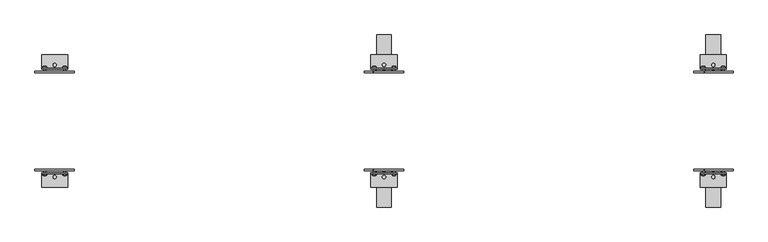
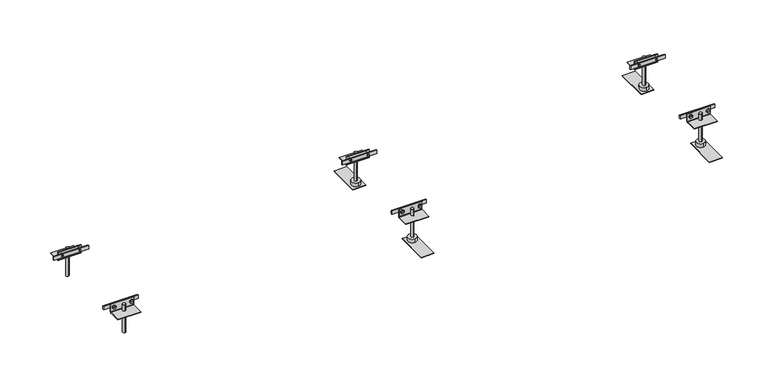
"""IFC4 building model written with IfcOpenShell, lengths in millimetres: proxy geometry, Electrical_Installation_Hager_BKW-Trunking-System-With-Trunking-Bottom-For-Dry-Cleaned-Floors : Nominal Size 250  Length 2.4 m."""

from ifc_helpers import new_model, si_unit, point, frame, frame_2d, origin, place, context, project, spatial, polyline, circle_curve, ellipse_curve, trimmed, segment, composite_curve, outline, extrude, source, transform, mapped, element, save
from ifc_brep_helpers import plane_surface, cylinder_surface, revolved_surface, advanced_brep


def electrical_fixtures_fba496b2(model_context):
    return source(origin(), model_context, "Body", "SolidModel", [
        advanced_brep(
        [(1629.0575247, -131.6418922, 2.5), (1619.4769168, -131.6418922, 2.5), (1619.4769168, -129.7, 2.5), (1629.0575247, -129.7, 2.5), (1621.7042517, -129.7, 2.5), (1626.8301898, -129.7, 2.5), (1621.7042517, -117.7, 2.5), (1626.8301898, -117.7, 2.5), (1624.2672208, -117.7, 2.5), (1624.2672208, -133.3479209, 2.5)],
        [
            (0, 1, circle_curve(frame((1624.2672208, -131.6418922, 2.5), z_axis=(0.0, 1.0, 0.0), x_axis=(-1.0, 0.0, 0.0)), 4.790304)),
            (1, 2),
            (2, 3, circle_curve(frame((1624.2672208, -129.7, 2.5), z_axis=(0.0, -1.0, 0.0), x_axis=(-1.0, 0.0, 0.0)), 4.790304)),
            (3, 0),
            (1, 0, circle_curve(frame((1624.2672208, -131.6418922, 2.5), z_axis=(0.0, 1.0, 0.0), x_axis=(-1.0, 0.0, 0.0)), 4.790304)),
            (3, 2, circle_curve(frame((1624.2672208, -129.7, 2.5), z_axis=(0.0, -1.0, 0.0), x_axis=(-1.0, 0.0, 0.0)), 4.790304)),
            (2, 4),
            (4, 5, circle_curve(frame((1624.2672208, -129.7, 2.5), z_axis=(0.0, -1.0, 0.0), x_axis=(-1.0, 0.0, 0.0)), 2.562969)),
            (5, 3),
            (5, 4, circle_curve(frame((1624.2672208, -129.7, 2.5), z_axis=(0.0, -1.0, 0.0), x_axis=(-1.0, 0.0, 0.0)), 2.562969)),
            (4, 6),
            (6, 7, circle_curve(frame((1624.2672208, -117.7, 2.5), z_axis=(0.0, -1.0, 0.0), x_axis=(-1.0, 0.0, 0.0)), 2.562969)),
            (7, 5),
            (7, 6, circle_curve(frame((1624.2672208, -117.7, 2.5), z_axis=(0.0, -1.0, 0.0), x_axis=(-1.0, 0.0, 0.0)), 2.562969)),
            (6, 8),
            (8, 7),
            (9, 1, circle_curve(frame((1624.2353142, -125.8592246, 2.5), z_axis=(0.0, 0.0, -1.0), x_axis=(-1.0, 0.0, 0.0)), 7.4887643)),
            (0, 9, circle_curve(frame((1624.2991274, -125.8592246, 2.5), z_axis=(0.0, 0.0, -1.0), x_axis=(1.0, 0.0, 0.0)), 7.4887643)),
        ],
        [
            cylinder_surface(frame((1624.2672208, -129.2950786, 2.5), z_axis=(0.0, -1.0, 0.0), x_axis=(-1.0, 0.0, 0.0)), 4.790304),
            plane_surface(frame((1624.2672208, -129.7, 2.5), z_axis=(0.0, 1.0, 0.0), x_axis=(-1.0, 0.0, 0.0))),
            cylinder_surface(frame((1624.2672208, -129.2950786, 2.5), z_axis=(0.0, -1.0, 0.0), x_axis=(-1.0, 0.0, 0.0)), 2.562969),
            plane_surface(frame((1624.2672208, -117.7, 2.5), z_axis=(0.0, 1.0, 0.0), x_axis=(-1.0, 0.0, 0.0))),
            revolved_surface(trimmed(ellipse_curve(frame((1624.2353142, -125.8592246, 2.5), z_axis=(0.0, 0.0, 1.0), x_axis=(-1.0, 0.0, 0.0)), 7.4887643, 7.4887643), [point((1619.4769168, -131.6418922, 2.5))], [point((1624.2672208, -133.3479209, 2.5))], True, "CARTESIAN"), (1624.2672208, -129.2950786, 2.5), (0.0, -1.0, 0.0)),
        ],
        [
            (0, [[1, 2, 3, 4]]),
            (0, [[5, -4, 6, -2]]),
            (1, [[-3, 7, 8, 9]]),
            (1, [[-6, -9, 10, -7]]),
            (2, [[-8, 11, 12, 13]]),
            (2, [[-10, -13, 14, -11]]),
            (3, [[-12, 15, 16]]),
            (3, [[-14, -16, -15]]),
            (4, [[17, -1, 18]]),
            (4, [[-18, -5, -17]]),
        ],
    ),
        advanced_brep(
        [(1580.790304, -131.6418922, 2.5), (1571.209696, -131.6418922, 2.5), (1571.209696, -129.7, 2.5), (1580.790304, -129.7, 2.5), (1573.437031, -129.7, 2.5), (1578.562969, -129.7, 2.5), (1573.437031, -117.7, 2.5), (1578.562969, -117.7, 2.5), (1576.0, -117.7, 2.5), (1576.0, -133.3479209, 2.5)],
        [
            (0, 1, circle_curve(frame((1576.0, -131.6418922, 2.5), z_axis=(0.0, 1.0, 0.0), x_axis=(-1.0, 0.0, 0.0)), 4.790304)),
            (1, 2),
            (2, 3, circle_curve(frame((1576.0, -129.7, 2.5), z_axis=(0.0, -1.0, 0.0), x_axis=(-1.0, 0.0, 0.0)), 4.790304)),
            (3, 0),
            (1, 0, circle_curve(frame((1576.0, -131.6418922, 2.5), z_axis=(0.0, 1.0, 0.0), x_axis=(-1.0, 0.0, 0.0)), 4.790304)),
            (3, 2, circle_curve(frame((1576.0, -129.7, 2.5), z_axis=(0.0, -1.0, 0.0), x_axis=(-1.0, 0.0, 0.0)), 4.790304)),
            (2, 4),
            (4, 5, circle_curve(frame((1576.0, -129.7, 2.5), z_axis=(0.0, -1.0, 0.0), x_axis=(-1.0, 0.0, 0.0)), 2.562969)),
            (5, 3),
            (5, 4, circle_curve(frame((1576.0, -129.7, 2.5), z_axis=(0.0, -1.0, 0.0), x_axis=(-1.0, 0.0, 0.0)), 2.562969)),
            (4, 6),
            (6, 7, circle_curve(frame((1576.0, -117.7, 2.5), z_axis=(0.0, -1.0, 0.0), x_axis=(-1.0, 0.0, 0.0)), 2.562969)),
            (7, 5),
            (7, 6, circle_curve(frame((1576.0, -117.7, 2.5), z_axis=(0.0, -1.0, 0.0), x_axis=(-1.0, 0.0, 0.0)), 2.562969)),
            (6, 8),
            (8, 7),
            (9, 1, circle_curve(frame((1575.9680934, -125.8592246, 2.5), z_axis=(0.0, 0.0, -1.0), x_axis=(-1.0, 0.0, 0.0)), 7.4887643)),
            (0, 9, circle_curve(frame((1576.0319066, -125.8592246, 2.5), z_axis=(0.0, 0.0, -1.0), x_axis=(1.0, 0.0, 0.0)), 7.4887643)),
        ],
        [
            cylinder_surface(frame((1576.0, -129.2950786, 2.5), z_axis=(0.0, -1.0, 0.0), x_axis=(-1.0, 0.0, 0.0)), 4.790304),
            plane_surface(frame((1576.0, -129.7, 2.5), z_axis=(0.0, 1.0, 0.0), x_axis=(-1.0, 0.0, 0.0))),
            cylinder_surface(frame((1576.0, -129.2950786, 2.5), z_axis=(0.0, -1.0, 0.0), x_axis=(-1.0, 0.0, 0.0)), 2.562969),
            plane_surface(frame((1576.0, -117.7, 2.5), z_axis=(0.0, 1.0, 0.0), x_axis=(-1.0, 0.0, 0.0))),
            revolved_surface(trimmed(ellipse_curve(frame((1575.9680934, -125.8592246, 2.5), z_axis=(0.0, 0.0, 1.0), x_axis=(-1.0, 0.0, 0.0)), 7.4887643, 7.4887643), [point((1571.209696, -131.6418922, 2.5))], [point((1576.0, -133.3479209, 2.5))], True, "CARTESIAN"), (1576.0, -129.2950786, 2.5), (0.0, -1.0, 0.0)),
        ],
        [
            (0, [[1, 2, 3, 4]]),
            (0, [[5, -4, 6, -2]]),
            (1, [[-3, 7, 8, 9]]),
            (1, [[-6, -9, 10, -7]]),
            (2, [[-8, 11, 12, 13]]),
            (2, [[-10, -13, 14, -11]]),
            (3, [[-12, 15, 16]]),
            (3, [[-14, -16, -15]]),
            (4, [[17, -1, 18]]),
            (4, [[-18, -5, -17]]),
        ],
    ),
        advanced_brep(
        [(1629.0575247, 129.7, 2.5), (1619.4769168, 129.7, 2.5), (1619.4769168, 131.6418922, 2.5), (1629.0575247, 131.6418922, 2.5), (1626.8301898, 129.7, 2.5), (1621.7042517, 129.7, 2.5), (1626.8301898, 117.7, 2.5), (1621.7042517, 117.7, 2.5), (1624.2672208, 117.7, 2.5), (1624.2672208, 133.3479209, 2.5)],
        [
            (0, 1, circle_curve(frame((1624.2672208, 129.7, 2.5), z_axis=(0.0, 1.0, 0.0), x_axis=(-1.0, 0.0, 0.0)), 4.790304)),
            (1, 2),
            (2, 3, circle_curve(frame((1624.2672208, 131.6418922, 2.5), z_axis=(0.0, -1.0, 0.0), x_axis=(-1.0, 0.0, 0.0)), 4.790304)),
            (3, 0),
            (1, 0, circle_curve(frame((1624.2672208, 129.7, 2.5), z_axis=(0.0, 1.0, 0.0), x_axis=(-1.0, 0.0, 0.0)), 4.790304)),
            (3, 2, circle_curve(frame((1624.2672208, 131.6418922, 2.5), z_axis=(0.0, -1.0, 0.0), x_axis=(-1.0, 0.0, 0.0)), 4.790304)),
            (4, 5, circle_curve(frame((1624.2672208, 129.7, 2.5), z_axis=(0.0, 1.0, 0.0), x_axis=(-1.0, 0.0, 0.0)), 2.562969)),
            (5, 1),
            (0, 4),
            (5, 4, circle_curve(frame((1624.2672208, 129.7, 2.5), z_axis=(0.0, 1.0, 0.0), x_axis=(-1.0, 0.0, 0.0)), 2.562969)),
            (6, 7, circle_curve(frame((1624.2672208, 117.7, 2.5), z_axis=(0.0, 1.0, 0.0), x_axis=(-1.0, 0.0, 0.0)), 2.562969)),
            (7, 5),
            (4, 6),
            (7, 6, circle_curve(frame((1624.2672208, 117.7, 2.5), z_axis=(0.0, 1.0, 0.0), x_axis=(-1.0, 0.0, 0.0)), 2.562969)),
            (8, 7),
            (6, 8),
            (2, 9, circle_curve(frame((1624.2353142, 125.8592246, 2.5), z_axis=(0.0, 0.0, -1.0), x_axis=(-1.0, 0.0, 0.0)), 7.4887643)),
            (9, 3, circle_curve(frame((1624.2991274, 125.8592246, 2.5), z_axis=(0.0, 0.0, -1.0), x_axis=(1.0, 0.0, 0.0)), 7.4887643)),
        ],
        [
            cylinder_surface(frame((1624.2672208, 129.2950786, 2.5), z_axis=(0.0, -1.0, 0.0), x_axis=(-1.0, 0.0, 0.0)), 4.790304),
            plane_surface(frame((1624.2672208, 129.7, 2.5), z_axis=(0.0, -1.0, 0.0), x_axis=(-1.0, 0.0, 0.0))),
            cylinder_surface(frame((1624.2672208, 129.2950786, 2.5), z_axis=(0.0, -1.0, 0.0), x_axis=(-1.0, 0.0, 0.0)), 2.562969),
            plane_surface(frame((1624.2672208, 117.7, 2.5), z_axis=(0.0, -1.0, 0.0), x_axis=(-1.0, 0.0, 0.0))),
            revolved_surface(trimmed(ellipse_curve(frame((1624.2353142, 125.8592246, 2.5), z_axis=(0.0, 0.0, 1.0), x_axis=(-1.0, 0.0, 0.0)), 7.4887643, 7.4887643), [point((1624.2672208, 133.3479209, 2.5))], [point((1619.4769168, 131.6418922, 2.5))], True, "CARTESIAN"), (1624.2672208, 129.2950786, 2.5), (0.0, -1.0, 0.0)),
        ],
        [
            (0, [[1, 2, 3, 4]]),
            (0, [[5, -4, 6, -2]]),
            (1, [[7, 8, -1, 9]]),
            (1, [[10, -9, -5, -8]]),
            (2, [[11, 12, -7, 13]]),
            (2, [[14, -13, -10, -12]]),
            (3, [[15, -11, 16]]),
            (3, [[-16, -14, -15]]),
            (4, [[-3, 17, 18]]),
            (4, [[-6, -18, -17]]),
        ],
    ),
        advanced_brep(
        [(1580.790304, 129.7, 2.5), (1571.209696, 129.7, 2.5), (1571.209696, 131.6418922, 2.5), (1580.790304, 131.6418922, 2.5), (1578.562969, 129.7, 2.5), (1573.437031, 129.7, 2.5), (1578.562969, 117.7, 2.5), (1573.437031, 117.7, 2.5), (1576.0, 117.7, 2.5), (1576.0, 133.3479209, 2.5)],
        [
            (0, 1, circle_curve(frame((1576.0, 129.7, 2.5), z_axis=(0.0, 1.0, 0.0), x_axis=(-1.0, 0.0, 0.0)), 4.790304)),
            (1, 2),
            (2, 3, circle_curve(frame((1576.0, 131.6418922, 2.5), z_axis=(0.0, -1.0, 0.0), x_axis=(-1.0, 0.0, 0.0)), 4.790304)),
            (3, 0),
            (1, 0, circle_curve(frame((1576.0, 129.7, 2.5), z_axis=(0.0, 1.0, 0.0), x_axis=(-1.0, 0.0, 0.0)), 4.790304)),
            (3, 2, circle_curve(frame((1576.0, 131.6418922, 2.5), z_axis=(0.0, -1.0, 0.0), x_axis=(-1.0, 0.0, 0.0)), 4.790304)),
            (4, 5, circle_curve(frame((1576.0, 129.7, 2.5), z_axis=(0.0, 1.0, 0.0), x_axis=(-1.0, 0.0, 0.0)), 2.562969)),
            (5, 1),
            (0, 4),
            (5, 4, circle_curve(frame((1576.0, 129.7, 2.5), z_axis=(0.0, 1.0, 0.0), x_axis=(-1.0, 0.0, 0.0)), 2.562969)),
            (6, 7, circle_curve(frame((1576.0, 117.7, 2.5), z_axis=(0.0, 1.0, 0.0), x_axis=(-1.0, 0.0, 0.0)), 2.562969)),
            (7, 5),
            (4, 6),
            (7, 6, circle_curve(frame((1576.0, 117.7, 2.5), z_axis=(0.0, 1.0, 0.0), x_axis=(-1.0, 0.0, 0.0)), 2.562969)),
            (8, 7),
            (6, 8),
            (2, 9, circle_curve(frame((1575.9680934, 125.8592246, 2.5), z_axis=(0.0, 0.0, -1.0), x_axis=(-1.0, 0.0, 0.0)), 7.4887643)),
            (9, 3, circle_curve(frame((1576.0319066, 125.8592246, 2.5), z_axis=(0.0, 0.0, -1.0), x_axis=(1.0, 0.0, 0.0)), 7.4887643)),
        ],
        [
            cylinder_surface(frame((1576.0, 129.2950786, 2.5), z_axis=(0.0, -1.0, 0.0), x_axis=(-1.0, 0.0, 0.0)), 4.790304),
            plane_surface(frame((1576.0, 129.7, 2.5), z_axis=(0.0, -1.0, 0.0), x_axis=(-1.0, 0.0, 0.0))),
            cylinder_surface(frame((1576.0, 129.2950786, 2.5), z_axis=(0.0, -1.0, 0.0), x_axis=(-1.0, 0.0, 0.0)), 2.562969),
            plane_surface(frame((1576.0, 117.7, 2.5), z_axis=(0.0, -1.0, 0.0), x_axis=(-1.0, 0.0, 0.0))),
            revolved_surface(trimmed(ellipse_curve(frame((1575.9680934, 125.8592246, 2.5), z_axis=(0.0, 0.0, 1.0), x_axis=(-1.0, 0.0, 0.0)), 7.4887643, 7.4887643), [point((1576.0, 133.3479209, 2.5))], [point((1571.209696, 131.6418922, 2.5))], True, "CARTESIAN"), (1576.0, 129.2950786, 2.5), (0.0, -1.0, 0.0)),
        ],
        [
            (0, [[1, 2, 3, 4]]),
            (0, [[5, -4, 6, -2]]),
            (1, [[7, 8, -1, 9]]),
            (1, [[10, -9, -5, -8]]),
            (2, [[11, 12, -7, 13]]),
            (2, [[14, -13, -10, -12]]),
            (3, [[15, -11, 16]]),
            (3, [[-16, -14, -15]]),
            (4, [[-3, 17, 18]]),
            (4, [[-6, -18, -17]]),
        ],
    ),
        extrude(outline(polyline([(1552.0, 117.7), (1552.0, 120.7), (1648.0, 120.7), (1648.0, 117.7), (1552.0, 117.7)])), frame((0.0, 0.0, -2.5), z_axis=(0.0, 0.0, 1.0), x_axis=(1.0, 0.0, 0.0)), (0.0, 0.0, 1.0), 10.0),
        extrude(outline(polyline([(1552.0, -120.7), (1552.0, -117.7), (1648.0, -117.7), (1648.0, -120.7), (1552.0, -120.7)])), frame((0.0, 0.0, -2.5), z_axis=(0.0, 0.0, 1.0), x_axis=(1.0, 0.0, 0.0)), (0.0, 0.0, 1.0), 10.0),
        extrude(outline(composite_curve([segment(polyline([(125.6, 10.9), (127.6, 10.9), (127.6, -11.1088822)]), True, "CONTINUOUS"), segment(trimmed(circle_curve(frame_2d((128.5911178, -11.1088822)), 0.9911178), [point((127.6, -11.1088822))], [point((128.5911178, -12.1))], True, "CARTESIAN"), True, "CONTINUOUS"), segment(polyline([(128.5911178, -12.1), (160.6, -12.1), (160.6, -14.1), (128.6002521, -14.1)]), True, "CONTINUOUS"), segment(trimmed(circle_curve(frame_2d((128.6002521, -11.0997479)), 3.0002521), [point((128.6002521, -14.1))], [point((125.6, -11.0997479))], False, "CARTESIAN"), True, "CONTINUOUS"), segment(polyline([(125.6, -11.0997479), (125.6, 10.9)]), True, "CONTINUOUS")], self_intersect=False)), frame((1568.3, 0.0, 0.0), z_axis=(1.0, 0.0, 0.0), x_axis=(0.0, 1.0, 0.0)), (0.0, 0.0, 1.0), 63.4),
        extrude(outline(composite_curve([segment(polyline([(-125.6, 10.9), (-125.6, -11.0997479)]), True, "CONTINUOUS"), segment(trimmed(circle_curve(frame_2d((-128.6002521, -11.0997479)), 3.0002521), [point((-125.6, -11.0997479))], [point((-128.6002521, -14.1))], False, "CARTESIAN"), True, "CONTINUOUS"), segment(polyline([(-128.6002521, -14.1), (-160.6, -14.1), (-160.6, -12.1), (-128.5911178, -12.1)]), True, "CONTINUOUS"), segment(trimmed(circle_curve(frame_2d((-128.5911178, -11.1088822)), 0.9911178), [point((-128.5911178, -12.1))], [point((-127.6, -11.1088822))], True, "CARTESIAN"), True, "CONTINUOUS"), segment(polyline([(-127.6, -11.1088822), (-127.6, 10.9), (-125.6, 10.9)]), True, "CONTINUOUS")], self_intersect=False)), frame((1568.3, 0.0, 0.0), z_axis=(1.0, 0.0, 0.0), x_axis=(0.0, 1.0, 0.0)), (0.0, 0.0, 1.0), 63.4),
        extrude(outline(composite_curve([segment(trimmed(circle_curve(frame_2d((1600.0, 136.1712378)), 3.9923162), [point((1600.0, 140.163554))], [point((1600.0, 132.1789216))], False, "CARTESIAN"), True, "CONTINUOUS"), segment(trimmed(circle_curve(frame_2d((1600.0, 136.1712378)), 3.9923162), [point((1600.0, 132.1789216))], [point((1600.0, 140.163554))], False, "CARTESIAN"), True, "CONTINUOUS")], self_intersect=False)), frame((0.0, 0.0, -74.8), z_axis=(0.0, 0.0, 1.0), x_axis=(1.0, 0.0, 0.0)), (0.0, 0.0, 1.0), 81.8),
        extrude(outline(composite_curve([segment(trimmed(circle_curve(frame_2d((1600.0, -136.0787011)), 3.991847), [point((1600.0, -132.0868541))], [point((1600.0, -140.0705482))], False, "CARTESIAN"), True, "CONTINUOUS"), segment(trimmed(circle_curve(frame_2d((1600.0, -136.0787011)), 3.991847), [point((1600.0, -140.0705482))], [point((1600.0, -132.0868541))], False, "CARTESIAN"), True, "CONTINUOUS")], self_intersect=False)), frame((0.0, 0.0, -74.8), z_axis=(0.0, 0.0, 1.0), x_axis=(1.0, 0.0, 0.0)), (0.0, 0.0, 1.0), 81.8),
        extrude(outline(composite_curve([segment(trimmed(circle_curve(frame_2d((1600.0, 136.1652527)), 12.0), [point((1600.0, 148.1652527))], [point((1600.0, 124.1652527))], False, "CARTESIAN"), True, "CONTINUOUS"), segment(trimmed(circle_curve(frame_2d((1600.0, 136.1652527)), 12.0), [point((1600.0, 124.1652527))], [point((1600.0, 148.1652527))], False, "CARTESIAN"), True, "CONTINUOUS")], self_intersect=False)), frame((0.0, 0.0, -85.5), z_axis=(0.0, 0.0, 1.0), x_axis=(1.0, 0.0, 0.0)), (0.0, 0.0, 1.0), 10.7),
        extrude(outline(composite_curve([segment(trimmed(circle_curve(frame_2d((1600.0, -136.112037)), 12.0), [point((1600.0, -124.112037))], [point((1600.0, -148.112037))], False, "CARTESIAN"), True, "CONTINUOUS"), segment(trimmed(circle_curve(frame_2d((1600.0, -136.112037)), 12.0), [point((1600.0, -148.112037))], [point((1600.0, -124.112037))], False, "CARTESIAN"), True, "CONTINUOUS")], self_intersect=False)), frame((0.0, 0.0, -85.5), z_axis=(0.0, 0.0, 1.0), x_axis=(1.0, 0.0, 0.0)), (0.0, 0.0, 1.0), 10.7),
        extrude(outline(polyline([(1618.0, 119.1), (1582.0, 119.1), (1582.0, 209.1), (1618.0, 209.1), (1618.0, 119.1)])), frame((0.0, 0.0, -87.0), z_axis=(0.0, 0.0, 1.0), x_axis=(1.0, 0.0, 0.0)), (0.0, 0.0, 1.0), 1.5),
        extrude(outline(polyline([(1618.0, -209.1), (1582.0, -209.1), (1582.0, -119.1), (1618.0, -119.1), (1618.0, -209.1)])), frame((0.0, 0.0, -87.0), z_axis=(0.0, 0.0, 1.0), x_axis=(1.0, 0.0, 0.0)), (0.0, 0.0, 1.0), 1.5),
        advanced_brep(
        [(829.0575247, -131.6418922, 2.5), (819.4769168, -131.6418922, 2.5), (819.4769168, -129.7, 2.5), (829.0575247, -129.7, 2.5), (821.7042517, -129.7, 2.5), (826.8301898, -129.7, 2.5), (821.7042517, -117.7, 2.5), (826.8301898, -117.7, 2.5), (824.2672208, -117.7, 2.5), (824.2672208, -133.3479209, 2.5)],
        [
            (0, 1, circle_curve(frame((824.2672208, -131.6418922, 2.5), z_axis=(0.0, 1.0, 0.0), x_axis=(-1.0, 0.0, 0.0)), 4.790304)),
            (1, 2),
            (2, 3, circle_curve(frame((824.2672208, -129.7, 2.5), z_axis=(0.0, -1.0, 0.0), x_axis=(-1.0, 0.0, 0.0)), 4.790304)),
            (3, 0),
            (1, 0, circle_curve(frame((824.2672208, -131.6418922, 2.5), z_axis=(0.0, 1.0, 0.0), x_axis=(-1.0, 0.0, 0.0)), 4.790304)),
            (3, 2, circle_curve(frame((824.2672208, -129.7, 2.5), z_axis=(0.0, -1.0, 0.0), x_axis=(-1.0, 0.0, 0.0)), 4.790304)),
            (2, 4),
            (4, 5, circle_curve(frame((824.2672208, -129.7, 2.5), z_axis=(0.0, -1.0, 0.0), x_axis=(-1.0, 0.0, 0.0)), 2.562969)),
            (5, 3),
            (5, 4, circle_curve(frame((824.2672208, -129.7, 2.5), z_axis=(0.0, -1.0, 0.0), x_axis=(-1.0, 0.0, 0.0)), 2.562969)),
            (4, 6),
            (6, 7, circle_curve(frame((824.2672208, -117.7, 2.5), z_axis=(0.0, -1.0, 0.0), x_axis=(-1.0, 0.0, 0.0)), 2.562969)),
            (7, 5),
            (7, 6, circle_curve(frame((824.2672208, -117.7, 2.5), z_axis=(0.0, -1.0, 0.0), x_axis=(-1.0, 0.0, 0.0)), 2.562969)),
            (6, 8),
            (8, 7),
            (9, 1, circle_curve(frame((824.2353142, -125.8592246, 2.5), z_axis=(0.0, 0.0, -1.0), x_axis=(-1.0, 0.0, 0.0)), 7.4887643)),
            (0, 9, circle_curve(frame((824.2991274, -125.8592246, 2.5), z_axis=(0.0, 0.0, -1.0), x_axis=(1.0, 0.0, 0.0)), 7.4887643)),
        ],
        [
            cylinder_surface(frame((824.2672208, -129.2950786, 2.5), z_axis=(0.0, -1.0, 0.0), x_axis=(-1.0, 0.0, 0.0)), 4.790304),
            plane_surface(frame((824.2672208, -129.7, 2.5), z_axis=(0.0, 1.0, 0.0), x_axis=(-1.0, 0.0, 0.0))),
            cylinder_surface(frame((824.2672208, -129.2950786, 2.5), z_axis=(0.0, -1.0, 0.0), x_axis=(-1.0, 0.0, 0.0)), 2.562969),
            plane_surface(frame((824.2672208, -117.7, 2.5), z_axis=(0.0, 1.0, 0.0), x_axis=(-1.0, 0.0, 0.0))),
            revolved_surface(trimmed(ellipse_curve(frame((824.2353142, -125.8592246, 2.5), z_axis=(0.0, 0.0, 1.0), x_axis=(-1.0, 0.0, 0.0)), 7.4887643, 7.4887643), [point((819.4769168, -131.6418922, 2.5))], [point((824.2672208, -133.3479209, 2.5))], True, "CARTESIAN"), (824.2672208, -129.2950786, 2.5), (0.0, -1.0, 0.0)),
        ],
        [
            (0, [[1, 2, 3, 4]]),
            (0, [[5, -4, 6, -2]]),
            (1, [[-3, 7, 8, 9]]),
            (1, [[-6, -9, 10, -7]]),
            (2, [[-8, 11, 12, 13]]),
            (2, [[-10, -13, 14, -11]]),
            (3, [[-12, 15, 16]]),
            (3, [[-14, -16, -15]]),
            (4, [[17, -1, 18]]),
            (4, [[-18, -5, -17]]),
        ],
    ),
        advanced_brep(
        [(780.790304, -131.6418922, 2.5), (771.209696, -131.6418922, 2.5), (771.209696, -129.7, 2.5), (780.790304, -129.7, 2.5), (773.437031, -129.7, 2.5), (778.562969, -129.7, 2.5), (773.437031, -117.7, 2.5), (778.562969, -117.7, 2.5), (776.0, -117.7, 2.5), (776.0, -133.3479209, 2.5)],
        [
            (0, 1, circle_curve(frame((776.0, -131.6418922, 2.5), z_axis=(0.0, 1.0, 0.0), x_axis=(-1.0, 0.0, 0.0)), 4.790304)),
            (1, 2),
            (2, 3, circle_curve(frame((776.0, -129.7, 2.5), z_axis=(0.0, -1.0, 0.0), x_axis=(-1.0, 0.0, 0.0)), 4.790304)),
            (3, 0),
            (1, 0, circle_curve(frame((776.0, -131.6418922, 2.5), z_axis=(0.0, 1.0, 0.0), x_axis=(-1.0, 0.0, 0.0)), 4.790304)),
            (3, 2, circle_curve(frame((776.0, -129.7, 2.5), z_axis=(0.0, -1.0, 0.0), x_axis=(-1.0, 0.0, 0.0)), 4.790304)),
            (2, 4),
            (4, 5, circle_curve(frame((776.0, -129.7, 2.5), z_axis=(0.0, -1.0, 0.0), x_axis=(-1.0, 0.0, 0.0)), 2.562969)),
            (5, 3),
            (5, 4, circle_curve(frame((776.0, -129.7, 2.5), z_axis=(0.0, -1.0, 0.0), x_axis=(-1.0, 0.0, 0.0)), 2.562969)),
            (4, 6),
            (6, 7, circle_curve(frame((776.0, -117.7, 2.5), z_axis=(0.0, -1.0, 0.0), x_axis=(-1.0, 0.0, 0.0)), 2.562969)),
            (7, 5),
            (7, 6, circle_curve(frame((776.0, -117.7, 2.5), z_axis=(0.0, -1.0, 0.0), x_axis=(-1.0, 0.0, 0.0)), 2.562969)),
            (6, 8),
            (8, 7),
            (9, 1, circle_curve(frame((775.9680934, -125.8592246, 2.5), z_axis=(0.0, 0.0, -1.0), x_axis=(-1.0, 0.0, 0.0)), 7.4887643)),
            (0, 9, circle_curve(frame((776.0319066, -125.8592246, 2.5), z_axis=(0.0, 0.0, -1.0), x_axis=(1.0, 0.0, 0.0)), 7.4887643)),
        ],
        [
            cylinder_surface(frame((776.0, -129.2950786, 2.5), z_axis=(0.0, -1.0, 0.0), x_axis=(-1.0, 0.0, 0.0)), 4.790304),
            plane_surface(frame((776.0, -129.7, 2.5), z_axis=(0.0, 1.0, 0.0), x_axis=(-1.0, 0.0, 0.0))),
            cylinder_surface(frame((776.0, -129.2950786, 2.5), z_axis=(0.0, -1.0, 0.0), x_axis=(-1.0, 0.0, 0.0)), 2.562969),
            plane_surface(frame((776.0, -117.7, 2.5), z_axis=(0.0, 1.0, 0.0), x_axis=(-1.0, 0.0, 0.0))),
            revolved_surface(trimmed(ellipse_curve(frame((775.9680934, -125.8592246, 2.5), z_axis=(0.0, 0.0, 1.0), x_axis=(-1.0, 0.0, 0.0)), 7.4887643, 7.4887643), [point((771.209696, -131.6418922, 2.5))], [point((776.0, -133.3479209, 2.5))], True, "CARTESIAN"), (776.0, -129.2950786, 2.5), (0.0, -1.0, 0.0)),
        ],
        [
            (0, [[1, 2, 3, 4]]),
            (0, [[5, -4, 6, -2]]),
            (1, [[-3, 7, 8, 9]]),
            (1, [[-6, -9, 10, -7]]),
            (2, [[-8, 11, 12, 13]]),
            (2, [[-10, -13, 14, -11]]),
            (3, [[-12, 15, 16]]),
            (3, [[-14, -16, -15]]),
            (4, [[17, -1, 18]]),
            (4, [[-18, -5, -17]]),
        ],
    ),
        advanced_brep(
        [(829.0575247, 129.7, 2.5), (819.4769168, 129.7, 2.5), (819.4769168, 131.6418922, 2.5), (829.0575247, 131.6418922, 2.5), (826.8301898, 129.7, 2.5), (821.7042517, 129.7, 2.5), (826.8301898, 117.7, 2.5), (821.7042517, 117.7, 2.5), (824.2672208, 117.7, 2.5), (824.2672208, 133.3479209, 2.5)],
        [
            (0, 1, circle_curve(frame((824.2672208, 129.7, 2.5), z_axis=(0.0, 1.0, 0.0), x_axis=(-1.0, 0.0, 0.0)), 4.790304)),
            (1, 2),
            (2, 3, circle_curve(frame((824.2672208, 131.6418922, 2.5), z_axis=(0.0, -1.0, 0.0), x_axis=(-1.0, 0.0, 0.0)), 4.790304)),
            (3, 0),
            (1, 0, circle_curve(frame((824.2672208, 129.7, 2.5), z_axis=(0.0, 1.0, 0.0), x_axis=(-1.0, 0.0, 0.0)), 4.790304)),
            (3, 2, circle_curve(frame((824.2672208, 131.6418922, 2.5), z_axis=(0.0, -1.0, 0.0), x_axis=(-1.0, 0.0, 0.0)), 4.790304)),
            (4, 5, circle_curve(frame((824.2672208, 129.7, 2.5), z_axis=(0.0, 1.0, 0.0), x_axis=(-1.0, 0.0, 0.0)), 2.562969)),
            (5, 1),
            (0, 4),
            (5, 4, circle_curve(frame((824.2672208, 129.7, 2.5), z_axis=(0.0, 1.0, 0.0), x_axis=(-1.0, 0.0, 0.0)), 2.562969)),
            (6, 7, circle_curve(frame((824.2672208, 117.7, 2.5), z_axis=(0.0, 1.0, 0.0), x_axis=(-1.0, 0.0, 0.0)), 2.562969)),
            (7, 5),
            (4, 6),
            (7, 6, circle_curve(frame((824.2672208, 117.7, 2.5), z_axis=(0.0, 1.0, 0.0), x_axis=(-1.0, 0.0, 0.0)), 2.562969)),
            (8, 7),
            (6, 8),
            (2, 9, circle_curve(frame((824.2353142, 125.8592246, 2.5), z_axis=(0.0, 0.0, -1.0), x_axis=(-1.0, 0.0, 0.0)), 7.4887643)),
            (9, 3, circle_curve(frame((824.2991274, 125.8592246, 2.5), z_axis=(0.0, 0.0, -1.0), x_axis=(1.0, 0.0, 0.0)), 7.4887643)),
        ],
        [
            cylinder_surface(frame((824.2672208, 129.2950786, 2.5), z_axis=(0.0, -1.0, 0.0), x_axis=(-1.0, 0.0, 0.0)), 4.790304),
            plane_surface(frame((824.2672208, 129.7, 2.5), z_axis=(0.0, -1.0, 0.0), x_axis=(-1.0, 0.0, 0.0))),
            cylinder_surface(frame((824.2672208, 129.2950786, 2.5), z_axis=(0.0, -1.0, 0.0), x_axis=(-1.0, 0.0, 0.0)), 2.562969),
            plane_surface(frame((824.2672208, 117.7, 2.5), z_axis=(0.0, -1.0, 0.0), x_axis=(-1.0, 0.0, 0.0))),
            revolved_surface(trimmed(ellipse_curve(frame((824.2353142, 125.8592246, 2.5), z_axis=(0.0, 0.0, 1.0), x_axis=(-1.0, 0.0, 0.0)), 7.4887643, 7.4887643), [point((824.2672208, 133.3479209, 2.5))], [point((819.4769168, 131.6418922, 2.5))], True, "CARTESIAN"), (824.2672208, 129.2950786, 2.5), (0.0, -1.0, 0.0)),
        ],
        [
            (0, [[1, 2, 3, 4]]),
            (0, [[5, -4, 6, -2]]),
            (1, [[7, 8, -1, 9]]),
            (1, [[10, -9, -5, -8]]),
            (2, [[11, 12, -7, 13]]),
            (2, [[14, -13, -10, -12]]),
            (3, [[15, -11, 16]]),
            (3, [[-16, -14, -15]]),
            (4, [[-3, 17, 18]]),
            (4, [[-6, -18, -17]]),
        ],
    ),
        advanced_brep(
        [(780.790304, 129.7, 2.5), (771.209696, 129.7, 2.5), (771.209696, 131.6418922, 2.5), (780.790304, 131.6418922, 2.5), (778.562969, 129.7, 2.5), (773.437031, 129.7, 2.5), (778.562969, 117.7, 2.5), (773.437031, 117.7, 2.5), (776.0, 117.7, 2.5), (776.0, 133.3479209, 2.5)],
        [
            (0, 1, circle_curve(frame((776.0, 129.7, 2.5), z_axis=(0.0, 1.0, 0.0), x_axis=(-1.0, 0.0, 0.0)), 4.790304)),
            (1, 2),
            (2, 3, circle_curve(frame((776.0, 131.6418922, 2.5), z_axis=(0.0, -1.0, 0.0), x_axis=(-1.0, 0.0, 0.0)), 4.790304)),
            (3, 0),
            (1, 0, circle_curve(frame((776.0, 129.7, 2.5), z_axis=(0.0, 1.0, 0.0), x_axis=(-1.0, 0.0, 0.0)), 4.790304)),
            (3, 2, circle_curve(frame((776.0, 131.6418922, 2.5), z_axis=(0.0, -1.0, 0.0), x_axis=(-1.0, 0.0, 0.0)), 4.790304)),
            (4, 5, circle_curve(frame((776.0, 129.7, 2.5), z_axis=(0.0, 1.0, 0.0), x_axis=(-1.0, 0.0, 0.0)), 2.562969)),
            (5, 1),
            (0, 4),
            (5, 4, circle_curve(frame((776.0, 129.7, 2.5), z_axis=(0.0, 1.0, 0.0), x_axis=(-1.0, 0.0, 0.0)), 2.562969)),
            (6, 7, circle_curve(frame((776.0, 117.7, 2.5), z_axis=(0.0, 1.0, 0.0), x_axis=(-1.0, 0.0, 0.0)), 2.562969)),
            (7, 5),
            (4, 6),
            (7, 6, circle_curve(frame((776.0, 117.7, 2.5), z_axis=(0.0, 1.0, 0.0), x_axis=(-1.0, 0.0, 0.0)), 2.562969)),
            (8, 7),
            (6, 8),
            (2, 9, circle_curve(frame((775.9680934, 125.8592246, 2.5), z_axis=(0.0, 0.0, -1.0), x_axis=(-1.0, 0.0, 0.0)), 7.4887643)),
            (9, 3, circle_curve(frame((776.0319066, 125.8592246, 2.5), z_axis=(0.0, 0.0, -1.0), x_axis=(1.0, 0.0, 0.0)), 7.4887643)),
        ],
        [
            cylinder_surface(frame((776.0, 129.2950786, 2.5), z_axis=(0.0, -1.0, 0.0), x_axis=(-1.0, 0.0, 0.0)), 4.790304),
            plane_surface(frame((776.0, 129.7, 2.5), z_axis=(0.0, -1.0, 0.0), x_axis=(-1.0, 0.0, 0.0))),
            cylinder_surface(frame((776.0, 129.2950786, 2.5), z_axis=(0.0, -1.0, 0.0), x_axis=(-1.0, 0.0, 0.0)), 2.562969),
            plane_surface(frame((776.0, 117.7, 2.5), z_axis=(0.0, -1.0, 0.0), x_axis=(-1.0, 0.0, 0.0))),
            revolved_surface(trimmed(ellipse_curve(frame((775.9680934, 125.8592246, 2.5), z_axis=(0.0, 0.0, 1.0), x_axis=(-1.0, 0.0, 0.0)), 7.4887643, 7.4887643), [point((776.0, 133.3479209, 2.5))], [point((771.209696, 131.6418922, 2.5))], True, "CARTESIAN"), (776.0, 129.2950786, 2.5), (0.0, -1.0, 0.0)),
        ],
        [
            (0, [[1, 2, 3, 4]]),
            (0, [[5, -4, 6, -2]]),
            (1, [[7, 8, -1, 9]]),
            (1, [[10, -9, -5, -8]]),
            (2, [[11, 12, -7, 13]]),
            (2, [[14, -13, -10, -12]]),
            (3, [[15, -11, 16]]),
            (3, [[-16, -14, -15]]),
            (4, [[-3, 17, 18]]),
            (4, [[-6, -18, -17]]),
        ],
    ),
        extrude(outline(polyline([(752.0, 117.7), (752.0, 120.7), (848.0, 120.7), (848.0, 117.7), (752.0, 117.7)])), frame((0.0, 0.0, -2.5), z_axis=(0.0, 0.0, 1.0), x_axis=(1.0, 0.0, 0.0)), (0.0, 0.0, 1.0), 10.0),
        extrude(outline(polyline([(752.0, -120.7), (752.0, -117.7), (848.0, -117.7), (848.0, -120.7), (752.0, -120.7)])), frame((0.0, 0.0, -2.5), z_axis=(0.0, 0.0, 1.0), x_axis=(1.0, 0.0, 0.0)), (0.0, 0.0, 1.0), 10.0),
        extrude(outline(composite_curve([segment(polyline([(125.6, 10.9), (127.6, 10.9), (127.6, -11.1088822)]), True, "CONTINUOUS"), segment(trimmed(circle_curve(frame_2d((128.5911178, -11.1088822)), 0.9911178), [point((127.6, -11.1088822))], [point((128.5911178, -12.1))], True, "CARTESIAN"), True, "CONTINUOUS"), segment(polyline([(128.5911178, -12.1), (160.6, -12.1), (160.6, -14.1), (128.6002521, -14.1)]), True, "CONTINUOUS"), segment(trimmed(circle_curve(frame_2d((128.6002521, -11.0997479)), 3.0002521), [point((128.6002521, -14.1))], [point((125.6, -11.0997479))], False, "CARTESIAN"), True, "CONTINUOUS"), segment(polyline([(125.6, -11.0997479), (125.6, 10.9)]), True, "CONTINUOUS")], self_intersect=False)), frame((768.3, 0.0, 0.0), z_axis=(1.0, 0.0, 0.0), x_axis=(0.0, 1.0, 0.0)), (0.0, 0.0, 1.0), 63.4),
        extrude(outline(composite_curve([segment(polyline([(-125.6, 10.9), (-125.6, -11.0997479)]), True, "CONTINUOUS"), segment(trimmed(circle_curve(frame_2d((-128.6002521, -11.0997479)), 3.0002521), [point((-125.6, -11.0997479))], [point((-128.6002521, -14.1))], False, "CARTESIAN"), True, "CONTINUOUS"), segment(polyline([(-128.6002521, -14.1), (-160.6, -14.1), (-160.6, -12.1), (-128.5911178, -12.1)]), True, "CONTINUOUS"), segment(trimmed(circle_curve(frame_2d((-128.5911178, -11.1088822)), 0.9911178), [point((-128.5911178, -12.1))], [point((-127.6, -11.1088822))], True, "CARTESIAN"), True, "CONTINUOUS"), segment(polyline([(-127.6, -11.1088822), (-127.6, 10.9), (-125.6, 10.9)]), True, "CONTINUOUS")], self_intersect=False)), frame((768.3, 0.0, 0.0), z_axis=(1.0, 0.0, 0.0), x_axis=(0.0, 1.0, 0.0)), (0.0, 0.0, 1.0), 63.4),
        extrude(outline(composite_curve([segment(trimmed(circle_curve(frame_2d((800.0, 136.1712378)), 3.9923162), [point((800.0, 140.163554))], [point((800.0, 132.1789216))], False, "CARTESIAN"), True, "CONTINUOUS"), segment(trimmed(circle_curve(frame_2d((800.0, 136.1712378)), 3.9923162), [point((800.0, 132.1789216))], [point((800.0, 140.163554))], False, "CARTESIAN"), True, "CONTINUOUS")], self_intersect=False)), frame((0.0, 0.0, -74.8), z_axis=(0.0, 0.0, 1.0), x_axis=(1.0, 0.0, 0.0)), (0.0, 0.0, 1.0), 81.8),
        extrude(outline(composite_curve([segment(trimmed(circle_curve(frame_2d((800.0, -136.0787011)), 3.991847), [point((800.0, -132.0868541))], [point((800.0, -140.0705482))], False, "CARTESIAN"), True, "CONTINUOUS"), segment(trimmed(circle_curve(frame_2d((800.0, -136.0787011)), 3.991847), [point((800.0, -140.0705482))], [point((800.0, -132.0868541))], False, "CARTESIAN"), True, "CONTINUOUS")], self_intersect=False)), frame((0.0, 0.0, -74.8), z_axis=(0.0, 0.0, 1.0), x_axis=(1.0, 0.0, 0.0)), (0.0, 0.0, 1.0), 81.8),
        extrude(outline(composite_curve([segment(trimmed(circle_curve(frame_2d((800.0, 136.1652527)), 12.0), [point((800.0, 148.1652527))], [point((800.0, 124.1652527))], False, "CARTESIAN"), True, "CONTINUOUS"), segment(trimmed(circle_curve(frame_2d((800.0, 136.1652527)), 12.0), [point((800.0, 124.1652527))], [point((800.0, 148.1652527))], False, "CARTESIAN"), True, "CONTINUOUS")], self_intersect=False)), frame((0.0, 0.0, -85.5), z_axis=(0.0, 0.0, 1.0), x_axis=(1.0, 0.0, 0.0)), (0.0, 0.0, 1.0), 10.7),
        extrude(outline(composite_curve([segment(trimmed(circle_curve(frame_2d((800.0, -136.112037)), 12.0), [point((800.0, -124.112037))], [point((800.0, -148.112037))], False, "CARTESIAN"), True, "CONTINUOUS"), segment(trimmed(circle_curve(frame_2d((800.0, -136.112037)), 12.0), [point((800.0, -148.112037))], [point((800.0, -124.112037))], False, "CARTESIAN"), True, "CONTINUOUS")], self_intersect=False)), frame((0.0, 0.0, -85.5), z_axis=(0.0, 0.0, 1.0), x_axis=(1.0, 0.0, 0.0)), (0.0, 0.0, 1.0), 10.7),
        extrude(outline(polyline([(818.0, 119.1), (782.0, 119.1), (782.0, 209.1), (818.0, 209.1), (818.0, 119.1)])), frame((0.0, 0.0, -87.0), z_axis=(0.0, 0.0, 1.0), x_axis=(1.0, 0.0, 0.0)), (0.0, 0.0, 1.0), 1.5),
        extrude(outline(polyline([(818.0, -209.1), (782.0, -209.1), (782.0, -119.1), (818.0, -119.1), (818.0, -209.1)])), frame((0.0, 0.0, -87.0), z_axis=(0.0, 0.0, 1.0), x_axis=(1.0, 0.0, 0.0)), (0.0, 0.0, 1.0), 1.5),
        advanced_brep(
        [(29.0575247, -131.6418922, 2.5), (19.4769168, -131.6418922, 2.5), (19.4769168, -129.7, 2.5), (29.0575247, -129.7, 2.5), (21.7042517, -129.7, 2.5), (26.8301898, -129.7, 2.5), (21.7042517, -117.7, 2.5), (26.8301898, -117.7, 2.5), (24.2672208, -117.7, 2.5), (24.2672208, -133.3479209, 2.5)],
        [
            (0, 1, circle_curve(frame((24.2672208, -131.6418922, 2.5), z_axis=(0.0, 1.0, 0.0), x_axis=(-1.0, 0.0, 0.0)), 4.790304)),
            (1, 2),
            (2, 3, circle_curve(frame((24.2672208, -129.7, 2.5), z_axis=(0.0, -1.0, 0.0), x_axis=(-1.0, 0.0, 0.0)), 4.790304)),
            (3, 0),
            (1, 0, circle_curve(frame((24.2672208, -131.6418922, 2.5), z_axis=(0.0, 1.0, 0.0), x_axis=(-1.0, 0.0, 0.0)), 4.790304)),
            (3, 2, circle_curve(frame((24.2672208, -129.7, 2.5), z_axis=(0.0, -1.0, 0.0), x_axis=(-1.0, 0.0, 0.0)), 4.790304)),
            (2, 4),
            (4, 5, circle_curve(frame((24.2672208, -129.7, 2.5), z_axis=(0.0, -1.0, 0.0), x_axis=(-1.0, 0.0, 0.0)), 2.562969)),
            (5, 3),
            (5, 4, circle_curve(frame((24.2672208, -129.7, 2.5), z_axis=(0.0, -1.0, 0.0), x_axis=(-1.0, 0.0, 0.0)), 2.562969)),
            (4, 6),
            (6, 7, circle_curve(frame((24.2672208, -117.7, 2.5), z_axis=(0.0, -1.0, 0.0), x_axis=(-1.0, 0.0, 0.0)), 2.562969)),
            (7, 5),
            (7, 6, circle_curve(frame((24.2672208, -117.7, 2.5), z_axis=(0.0, -1.0, 0.0), x_axis=(-1.0, 0.0, 0.0)), 2.562969)),
            (6, 8),
            (8, 7),
            (9, 1, circle_curve(frame((24.2353142, -125.8592246, 2.5), z_axis=(0.0, 0.0, -1.0), x_axis=(-1.0, 0.0, 0.0)), 7.4887643)),
            (0, 9, circle_curve(frame((24.2991274, -125.8592246, 2.5), z_axis=(0.0, 0.0, -1.0), x_axis=(1.0, 0.0, 0.0)), 7.4887643)),
        ],
        [
            cylinder_surface(frame((24.2672208, -129.2950786, 2.5), z_axis=(0.0, -1.0, 0.0), x_axis=(-1.0, 0.0, 0.0)), 4.790304),
            plane_surface(frame((24.2672208, -129.7, 2.5), z_axis=(0.0, 1.0, 0.0), x_axis=(-1.0, 0.0, 0.0))),
            cylinder_surface(frame((24.2672208, -129.2950786, 2.5), z_axis=(0.0, -1.0, 0.0), x_axis=(-1.0, 0.0, 0.0)), 2.562969),
            plane_surface(frame((24.2672208, -117.7, 2.5), z_axis=(0.0, 1.0, 0.0), x_axis=(-1.0, 0.0, 0.0))),
            revolved_surface(trimmed(ellipse_curve(frame((24.2353142, -125.8592246, 2.5), z_axis=(0.0, 0.0, 1.0), x_axis=(-1.0, 0.0, 0.0)), 7.4887643, 7.4887643), [point((19.4769168, -131.6418922, 2.5))], [point((24.2672208, -133.3479209, 2.5))], True, "CARTESIAN"), (24.2672208, -129.2950786, 2.5), (0.0, -1.0, 0.0)),
        ],
        [
            (0, [[1, 2, 3, 4]]),
            (0, [[5, -4, 6, -2]]),
            (1, [[-3, 7, 8, 9]]),
            (1, [[-6, -9, 10, -7]]),
            (2, [[-8, 11, 12, 13]]),
            (2, [[-10, -13, 14, -11]]),
            (3, [[-12, 15, 16]]),
            (3, [[-14, -16, -15]]),
            (4, [[17, -1, 18]]),
            (4, [[-18, -5, -17]]),
        ],
    ),
        advanced_brep(
        [(-19.209696, -131.6418922, 2.5), (-28.790304, -131.6418922, 2.5), (-28.790304, -129.7, 2.5), (-19.209696, -129.7, 2.5), (-26.562969, -129.7, 2.5), (-21.437031, -129.7, 2.5), (-26.562969, -117.7, 2.5), (-21.437031, -117.7, 2.5), (-24.0, -117.7, 2.5), (-24.0, -133.3479209, 2.5)],
        [
            (0, 1, circle_curve(frame((-24.0, -131.6418922, 2.5), z_axis=(0.0, 1.0, 0.0), x_axis=(-1.0, 0.0, 0.0)), 4.790304)),
            (1, 2),
            (2, 3, circle_curve(frame((-24.0, -129.7, 2.5), z_axis=(0.0, -1.0, 0.0), x_axis=(-1.0, 0.0, 0.0)), 4.790304)),
            (3, 0),
            (1, 0, circle_curve(frame((-24.0, -131.6418922, 2.5), z_axis=(0.0, 1.0, 0.0), x_axis=(-1.0, 0.0, 0.0)), 4.790304)),
            (3, 2, circle_curve(frame((-24.0, -129.7, 2.5), z_axis=(0.0, -1.0, 0.0), x_axis=(-1.0, 0.0, 0.0)), 4.790304)),
            (2, 4),
            (4, 5, circle_curve(frame((-24.0, -129.7, 2.5), z_axis=(0.0, -1.0, 0.0), x_axis=(-1.0, 0.0, 0.0)), 2.562969)),
            (5, 3),
            (5, 4, circle_curve(frame((-24.0, -129.7, 2.5), z_axis=(0.0, -1.0, 0.0), x_axis=(-1.0, 0.0, 0.0)), 2.562969)),
            (4, 6),
            (6, 7, circle_curve(frame((-24.0, -117.7, 2.5), z_axis=(0.0, -1.0, 0.0), x_axis=(-1.0, 0.0, 0.0)), 2.562969)),
            (7, 5),
            (7, 6, circle_curve(frame((-24.0, -117.7, 2.5), z_axis=(0.0, -1.0, 0.0), x_axis=(-1.0, 0.0, 0.0)), 2.562969)),
            (6, 8),
            (8, 7),
            (9, 1, circle_curve(frame((-24.0319066, -125.8592246, 2.5), z_axis=(0.0, 0.0, -1.0), x_axis=(-1.0, 0.0, 0.0)), 7.4887643)),
            (0, 9, circle_curve(frame((-23.9680934, -125.8592246, 2.5), z_axis=(0.0, 0.0, -1.0), x_axis=(1.0, 0.0, 0.0)), 7.4887643)),
        ],
        [
            cylinder_surface(frame((-24.0, -129.2950786, 2.5), z_axis=(0.0, -1.0, 0.0), x_axis=(-1.0, 0.0, 0.0)), 4.790304),
            plane_surface(frame((-24.0, -129.7, 2.5), z_axis=(0.0, 1.0, 0.0), x_axis=(-1.0, 0.0, 0.0))),
            cylinder_surface(frame((-24.0, -129.2950786, 2.5), z_axis=(0.0, -1.0, 0.0), x_axis=(-1.0, 0.0, 0.0)), 2.562969),
            plane_surface(frame((-24.0, -117.7, 2.5), z_axis=(0.0, 1.0, 0.0), x_axis=(-1.0, 0.0, 0.0))),
            revolved_surface(trimmed(ellipse_curve(frame((-24.0319066, -125.8592246, 2.5), z_axis=(0.0, 0.0, 1.0), x_axis=(-1.0, 0.0, 0.0)), 7.4887643, 7.4887643), [point((-28.790304, -131.6418922, 2.5))], [point((-24.0, -133.3479209, 2.5))], True, "CARTESIAN"), (-24.0, -129.2950786, 2.5), (0.0, -1.0, 0.0)),
        ],
        [
            (0, [[1, 2, 3, 4]]),
            (0, [[5, -4, 6, -2]]),
            (1, [[-3, 7, 8, 9]]),
            (1, [[-6, -9, 10, -7]]),
            (2, [[-8, 11, 12, 13]]),
            (2, [[-10, -13, 14, -11]]),
            (3, [[-12, 15, 16]]),
            (3, [[-14, -16, -15]]),
            (4, [[17, -1, 18]]),
            (4, [[-18, -5, -17]]),
        ],
    ),
        advanced_brep(
        [(29.0575247, 129.7, 2.5), (19.4769168, 129.7, 2.5), (19.4769168, 131.6418922, 2.5), (29.0575247, 131.6418922, 2.5), (26.8301898, 129.7, 2.5), (21.7042517, 129.7, 2.5), (26.8301898, 117.7, 2.5), (21.7042517, 117.7, 2.5), (24.2672208, 117.7, 2.5), (24.2672208, 133.3479209, 2.5)],
        [
            (0, 1, circle_curve(frame((24.2672208, 129.7, 2.5), z_axis=(0.0, 1.0, 0.0), x_axis=(-1.0, 0.0, 0.0)), 4.790304)),
            (1, 2),
            (2, 3, circle_curve(frame((24.2672208, 131.6418922, 2.5), z_axis=(0.0, -1.0, 0.0), x_axis=(-1.0, 0.0, 0.0)), 4.790304)),
            (3, 0),
            (1, 0, circle_curve(frame((24.2672208, 129.7, 2.5), z_axis=(0.0, 1.0, 0.0), x_axis=(-1.0, 0.0, 0.0)), 4.790304)),
            (3, 2, circle_curve(frame((24.2672208, 131.6418922, 2.5), z_axis=(0.0, -1.0, 0.0), x_axis=(-1.0, 0.0, 0.0)), 4.790304)),
            (4, 5, circle_curve(frame((24.2672208, 129.7, 2.5), z_axis=(0.0, 1.0, 0.0), x_axis=(-1.0, 0.0, 0.0)), 2.562969)),
            (5, 1),
            (0, 4),
            (5, 4, circle_curve(frame((24.2672208, 129.7, 2.5), z_axis=(0.0, 1.0, 0.0), x_axis=(-1.0, 0.0, 0.0)), 2.562969)),
            (6, 7, circle_curve(frame((24.2672208, 117.7, 2.5), z_axis=(0.0, 1.0, 0.0), x_axis=(-1.0, 0.0, 0.0)), 2.562969)),
            (7, 5),
            (4, 6),
            (7, 6, circle_curve(frame((24.2672208, 117.7, 2.5), z_axis=(0.0, 1.0, 0.0), x_axis=(-1.0, 0.0, 0.0)), 2.562969)),
            (8, 7),
            (6, 8),
            (2, 9, circle_curve(frame((24.2353142, 125.8592246, 2.5), z_axis=(0.0, 0.0, -1.0), x_axis=(-1.0, 0.0, 0.0)), 7.4887643)),
            (9, 3, circle_curve(frame((24.2991274, 125.8592246, 2.5), z_axis=(0.0, 0.0, -1.0), x_axis=(1.0, 0.0, 0.0)), 7.4887643)),
        ],
        [
            cylinder_surface(frame((24.2672208, 129.2950786, 2.5), z_axis=(0.0, -1.0, 0.0), x_axis=(-1.0, 0.0, 0.0)), 4.790304),
            plane_surface(frame((24.2672208, 129.7, 2.5), z_axis=(0.0, -1.0, 0.0), x_axis=(-1.0, 0.0, 0.0))),
            cylinder_surface(frame((24.2672208, 129.2950786, 2.5), z_axis=(0.0, -1.0, 0.0), x_axis=(-1.0, 0.0, 0.0)), 2.562969),
            plane_surface(frame((24.2672208, 117.7, 2.5), z_axis=(0.0, -1.0, 0.0), x_axis=(-1.0, 0.0, 0.0))),
            revolved_surface(trimmed(ellipse_curve(frame((24.2353142, 125.8592246, 2.5), z_axis=(0.0, 0.0, 1.0), x_axis=(-1.0, 0.0, 0.0)), 7.4887643, 7.4887643), [point((24.2672208, 133.3479209, 2.5))], [point((19.4769168, 131.6418922, 2.5))], True, "CARTESIAN"), (24.2672208, 129.2950786, 2.5), (0.0, -1.0, 0.0)),
        ],
        [
            (0, [[1, 2, 3, 4]]),
            (0, [[5, -4, 6, -2]]),
            (1, [[7, 8, -1, 9]]),
            (1, [[10, -9, -5, -8]]),
            (2, [[11, 12, -7, 13]]),
            (2, [[14, -13, -10, -12]]),
            (3, [[15, -11, 16]]),
            (3, [[-16, -14, -15]]),
            (4, [[-3, 17, 18]]),
            (4, [[-6, -18, -17]]),
        ],
    ),
        advanced_brep(
        [(-19.209696, 129.7, 2.5), (-28.790304, 129.7, 2.5), (-28.790304, 131.6418922, 2.5), (-19.209696, 131.6418922, 2.5), (-21.437031, 129.7, 2.5), (-26.562969, 129.7, 2.5), (-21.437031, 117.7, 2.5), (-26.562969, 117.7, 2.5), (-24.0, 117.7, 2.5), (-24.0, 133.3479209, 2.5)],
        [
            (0, 1, circle_curve(frame((-24.0, 129.7, 2.5), z_axis=(0.0, 1.0, 0.0), x_axis=(-1.0, 0.0, 0.0)), 4.790304)),
            (1, 2),
            (2, 3, circle_curve(frame((-24.0, 131.6418922, 2.5), z_axis=(0.0, -1.0, 0.0), x_axis=(-1.0, 0.0, 0.0)), 4.790304)),
            (3, 0),
            (1, 0, circle_curve(frame((-24.0, 129.7, 2.5), z_axis=(0.0, 1.0, 0.0), x_axis=(-1.0, 0.0, 0.0)), 4.790304)),
            (3, 2, circle_curve(frame((-24.0, 131.6418922, 2.5), z_axis=(0.0, -1.0, 0.0), x_axis=(-1.0, 0.0, 0.0)), 4.790304)),
            (4, 5, circle_curve(frame((-24.0, 129.7, 2.5), z_axis=(0.0, 1.0, 0.0), x_axis=(-1.0, 0.0, 0.0)), 2.562969)),
            (5, 1),
            (0, 4),
            (5, 4, circle_curve(frame((-24.0, 129.7, 2.5), z_axis=(0.0, 1.0, 0.0), x_axis=(-1.0, 0.0, 0.0)), 2.562969)),
            (6, 7, circle_curve(frame((-24.0, 117.7, 2.5), z_axis=(0.0, 1.0, 0.0), x_axis=(-1.0, 0.0, 0.0)), 2.562969)),
            (7, 5),
            (4, 6),
            (7, 6, circle_curve(frame((-24.0, 117.7, 2.5), z_axis=(0.0, 1.0, 0.0), x_axis=(-1.0, 0.0, 0.0)), 2.562969)),
            (8, 7),
            (6, 8),
            (2, 9, circle_curve(frame((-24.0319066, 125.8592246, 2.5), z_axis=(0.0, 0.0, -1.0), x_axis=(-1.0, 0.0, 0.0)), 7.4887643)),
            (9, 3, circle_curve(frame((-23.9680934, 125.8592246, 2.5), z_axis=(0.0, 0.0, -1.0), x_axis=(1.0, 0.0, 0.0)), 7.4887643)),
        ],
        [
            cylinder_surface(frame((-24.0, 129.2950786, 2.5), z_axis=(0.0, -1.0, 0.0), x_axis=(-1.0, 0.0, 0.0)), 4.790304),
            plane_surface(frame((-24.0, 129.7, 2.5), z_axis=(0.0, -1.0, 0.0), x_axis=(-1.0, 0.0, 0.0))),
            cylinder_surface(frame((-24.0, 129.2950786, 2.5), z_axis=(0.0, -1.0, 0.0), x_axis=(-1.0, 0.0, 0.0)), 2.562969),
            plane_surface(frame((-24.0, 117.7, 2.5), z_axis=(0.0, -1.0, 0.0), x_axis=(-1.0, 0.0, 0.0))),
            revolved_surface(trimmed(ellipse_curve(frame((-24.0319066, 125.8592246, 2.5), z_axis=(0.0, 0.0, 1.0), x_axis=(-1.0, 0.0, 0.0)), 7.4887643, 7.4887643), [point((-24.0, 133.3479209, 2.5))], [point((-28.790304, 131.6418922, 2.5))], True, "CARTESIAN"), (-24.0, 129.2950786, 2.5), (0.0, -1.0, 0.0)),
        ],
        [
            (0, [[1, 2, 3, 4]]),
            (0, [[5, -4, 6, -2]]),
            (1, [[7, 8, -1, 9]]),
            (1, [[10, -9, -5, -8]]),
            (2, [[11, 12, -7, 13]]),
            (2, [[14, -13, -10, -12]]),
            (3, [[15, -11, 16]]),
            (3, [[-16, -14, -15]]),
            (4, [[-3, 17, 18]]),
            (4, [[-6, -18, -17]]),
        ],
    ),
        extrude(outline(polyline([(-48.0, 117.7), (-48.0, 120.7), (48.0, 120.7), (48.0, 117.7), (-48.0, 117.7)])), frame((0.0, 0.0, -2.5), z_axis=(0.0, 0.0, 1.0), x_axis=(1.0, 0.0, 0.0)), (0.0, 0.0, 1.0), 10.0),
        extrude(outline(polyline([(-48.0, -120.7), (-48.0, -117.7), (48.0, -117.7), (48.0, -120.7), (-48.0, -120.7)])), frame((0.0, 0.0, -2.5), z_axis=(0.0, 0.0, 1.0), x_axis=(1.0, 0.0, 0.0)), (0.0, 0.0, 1.0), 10.0),
        extrude(outline(composite_curve([segment(polyline([(125.6, 10.9), (127.6, 10.9), (127.6, -11.1088822)]), True, "CONTINUOUS"), segment(trimmed(circle_curve(frame_2d((128.5911178, -11.1088822)), 0.9911178), [point((127.6, -11.1088822))], [point((128.5911178, -12.1))], True, "CARTESIAN"), True, "CONTINUOUS"), segment(polyline([(128.5911178, -12.1), (160.6, -12.1), (160.6, -14.1), (128.6002521, -14.1)]), True, "CONTINUOUS"), segment(trimmed(circle_curve(frame_2d((128.6002521, -11.0997479)), 3.0002521), [point((128.6002521, -14.1))], [point((125.6, -11.0997479))], False, "CARTESIAN"), True, "CONTINUOUS"), segment(polyline([(125.6, -11.0997479), (125.6, 10.9)]), True, "CONTINUOUS")], self_intersect=False)), frame((-31.7, 0.0, 0.0), z_axis=(1.0, 0.0, 0.0), x_axis=(0.0, 1.0, 0.0)), (0.0, 0.0, 1.0), 63.4),
        extrude(outline(composite_curve([segment(polyline([(-125.6, 10.9), (-125.6, -11.0997479)]), True, "CONTINUOUS"), segment(trimmed(circle_curve(frame_2d((-128.6002521, -11.0997479)), 3.0002521), [point((-125.6, -11.0997479))], [point((-128.6002521, -14.1))], False, "CARTESIAN"), True, "CONTINUOUS"), segment(polyline([(-128.6002521, -14.1), (-160.6, -14.1), (-160.6, -12.1), (-128.5911178, -12.1)]), True, "CONTINUOUS"), segment(trimmed(circle_curve(frame_2d((-128.5911178, -11.1088822)), 0.9911178), [point((-128.5911178, -12.1))], [point((-127.6, -11.1088822))], True, "CARTESIAN"), True, "CONTINUOUS"), segment(polyline([(-127.6, -11.1088822), (-127.6, 10.9), (-125.6, 10.9)]), True, "CONTINUOUS")], self_intersect=False)), frame((-31.7, 0.0, 0.0), z_axis=(1.0, 0.0, 0.0), x_axis=(0.0, 1.0, 0.0)), (0.0, 0.0, 1.0), 63.4),
        extrude(outline(composite_curve([segment(trimmed(circle_curve(frame_2d((0.0, 136.1712378)), 3.9923162), [point((0.0, 140.163554))], [point((0.0, 132.1789216))], False, "CARTESIAN"), True, "CONTINUOUS"), segment(trimmed(circle_curve(frame_2d((0.0, 136.1712378)), 3.9923162), [point((0.0, 132.1789216))], [point((0.0, 140.163554))], False, "CARTESIAN"), True, "CONTINUOUS")], self_intersect=False)), frame((0.0, 0.0, -74.8), z_axis=(0.0, 0.0, 1.0), x_axis=(1.0, 0.0, 0.0)), (0.0, 0.0, 1.0), 81.8),
        extrude(outline(composite_curve([segment(trimmed(circle_curve(frame_2d((0.0, -136.0787011)), 3.991847), [point((0.0, -132.0868541))], [point((0.0, -140.0705482))], False, "CARTESIAN"), True, "CONTINUOUS"), segment(trimmed(circle_curve(frame_2d((0.0, -136.0787011)), 3.991847), [point((0.0, -140.0705482))], [point((0.0, -132.0868541))], False, "CARTESIAN"), True, "CONTINUOUS")], self_intersect=False)), frame((0.0, 0.0, -74.8), z_axis=(0.0, 0.0, 1.0), x_axis=(1.0, 0.0, 0.0)), (0.0, 0.0, 1.0), 81.8),
    ])


if __name__ == "__main__":
    model = new_model("IFC4")
    model_context = context("Model", 3, world=origin())
    ifc_project = project(units=[si_unit("LENGTHUNIT", "METRE", prefix="MILLI")], contexts=[model_context])
    site = spatial("IfcSite", under=ifc_project)
    building = spatial("IfcBuilding", under=site)
    placement = place(None, origin())
    electrical_fixtures_shape = electrical_fixtures_fba496b2(model_context)
    element("IfcBuildingElementProxy", 1, Name="Electrical_Installation_Hager_BKW-Trunking-System-With-Trunking-Bottom-For-Dry-Cleaned-Floors : Nominal Size 250  Length 2.4 m", ObjectType="Electrical_Installation_Hager_BKW-Trunking-System-With-Trunking-Bottom-For-Dry-Cleaned-Floors : Nominal Size 250  Length 2.4 m", at=placement, inside=building, context=model_context, shape_type="MappedRepresentation", body=[
        mapped(electrical_fixtures_shape, transform((0.0, 0.0, 0.0), x_axis=(1.0, 0.0, 0.0), y_axis=(0.0, 1.0, 0.0), z_axis=(0.0, 0.0, 1.0))),
    ])
    save(model, "model.ifc")
